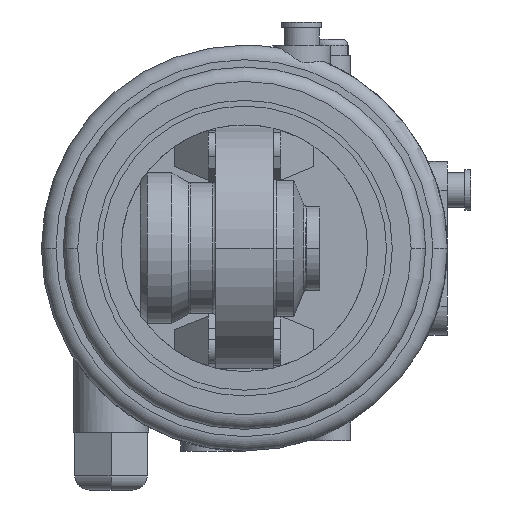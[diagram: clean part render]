
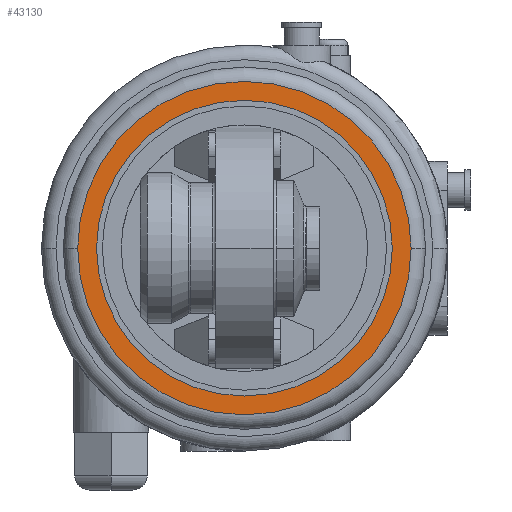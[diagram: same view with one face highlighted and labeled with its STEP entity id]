
A CAD part, front view. The second image highlights one B-rep face of the part: STEP entity #43130.
In plain terms, the highlighted planar face has unit normal (0, -1, 0).
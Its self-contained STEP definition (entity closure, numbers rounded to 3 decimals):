
#41710=CARTESIAN_POINT('',(-51.,6.224,0.));
#41720=VERTEX_POINT('',#41710);
#41750=CARTESIAN_POINT('',(0.,6.224,0.));
#41760=DIRECTION('',(0.,1.,0.));
#41770=DIRECTION('',(-1.,0.,0.));
#41780=AXIS2_PLACEMENT_3D('',#41750,#41760,#41770);
#41790=CIRCLE('',#41780,51.);
#41800=CARTESIAN_POINT('',(51.,6.224,0.));
#41810=VERTEX_POINT('',#41800);
#41820=EDGE_CURVE('',#41720,#41810,#41790,.T.);
#42140=CARTESIAN_POINT('',(-57.5,6.224,0.));
#42150=VERTEX_POINT('',#42140);
#42360=CARTESIAN_POINT('',(57.5,6.224,0.));
#42370=VERTEX_POINT('',#42360);
#42400=CARTESIAN_POINT('',(0.,6.224,0.));
#42410=DIRECTION('',(0.,1.,0.));
#42420=DIRECTION('',(0.,0.,1.));
#42430=AXIS2_PLACEMENT_3D('',#42400,#42410,#42420);
#42440=CIRCLE('',#42430,57.5);
#42450=EDGE_CURVE('',#42150,#42370,#42440,.T.);
#42980=CARTESIAN_POINT('',(0.,6.224,0.));
#42990=DIRECTION('',(0.,1.,0.));
#43000=DIRECTION('',(0.,0.,1.));
#43010=AXIS2_PLACEMENT_3D('',#42980,#42990,#43000);
#43020=PLANE('',#43010);
#43030=EDGE_CURVE('',#41810,#41720,#41790,.T.);
#43040=ORIENTED_EDGE('',*,*,#43030,.T.);
#43050=ORIENTED_EDGE('',*,*,#41820,.T.);
#43060=EDGE_LOOP('',(#43050,#43040));
#43070=FACE_BOUND('',#43060,.T.);
#43080=EDGE_CURVE('',#42370,#42150,#42440,.T.);
#43090=ORIENTED_EDGE('',*,*,#43080,.F.);
#43100=ORIENTED_EDGE('',*,*,#42450,.F.);
#43110=EDGE_LOOP('',(#43100,#43090));
#43120=FACE_OUTER_BOUND('',#43110,.T.);
#43130=ADVANCED_FACE('',(#43070,#43120),#43020,.F.);
